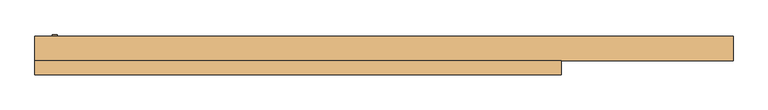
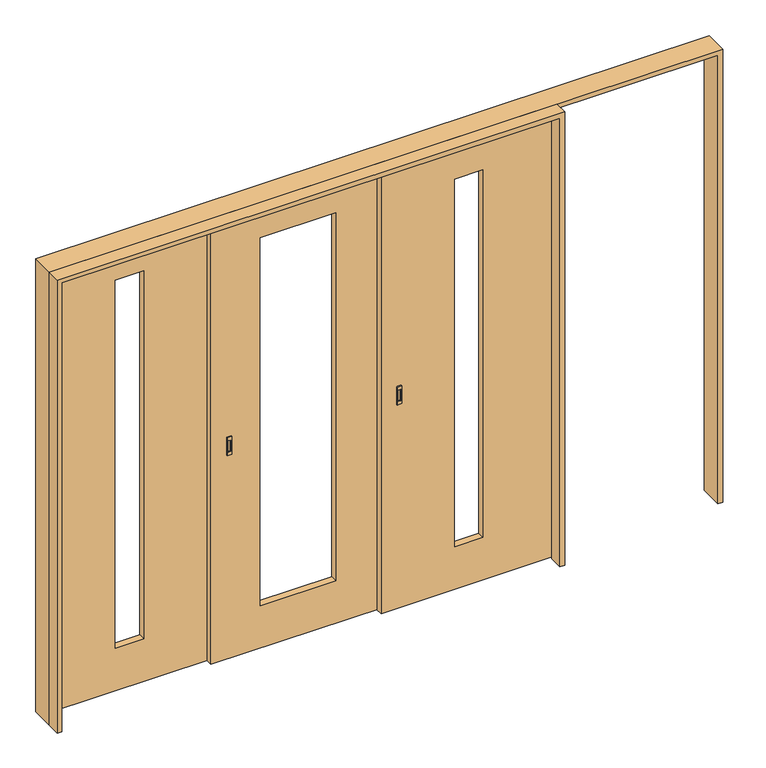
"""IFC4 building model written with IfcOpenShell, lengths in millimetres: door geometry, 木製_片引き3枚_フラッシュ2 : WD-9 w2100h2000."""

import ifcopenshell
import ifcopenshell.guid

model = None  # the IFC model being written
_history = None  # IfcOwnerHistory: only IFC2X3 demands one
_inside = {}  # id of a spatial element -> (the spatial element, [elements in it])
_under = {}  # id of a project, library or spatial element -> (it, [spatial elements below it])
_declared = {}  # id of a project -> (the project, [libraries it declares])
_typed = {}  # id of a type object -> (the type object, [elements of that type])
_made_of = {}  # id of a material, layer set ... -> (it, [elements and type objects made of it])


def new_model(schema):
    """Start an empty IFC model of exactly this schema.

    Asked for "IFC4X3", IfcOpenShell would pick the latest addendum, in which some entities
    have other attributes; the version numbers below select the first issue.
    IFC2X3 requires an IfcOwnerHistory on every rooted entity: one is made here for all.
    """
    global model, _history
    if schema == "IFC4X3":
        model = ifcopenshell.file(schema_version=(4, 3, 0, 0))
    else:
        model = ifcopenshell.file(schema=schema)
    _inside.clear()
    _under.clear()
    _declared.clear()
    _typed.clear()
    _made_of.clear()
    _history = None
    if model.schema == "IFC2X3":
        org = make("IfcOrganization", Name="unknown")
        user = make(
            "IfcPersonAndOrganization",
            ThePerson=make("IfcPerson", FamilyName="unknown"),
            TheOrganization=org,
        )
        app = make(
            "IfcApplication",
            ApplicationDeveloper=org,
            Version="unknown",
            ApplicationFullName="unknown",
            ApplicationIdentifier="unknown",
        )
        _history = make(
            "IfcOwnerHistory",
            OwningUser=user,
            OwningApplication=app,
            ChangeAction="ADDED",
            CreationDate=0,
        )
    return model


def make(cls, **values):
    """One entity of the class cls with the attributes given. An attribute that is None is left unset."""
    return model.create_entity(
        cls, **{name: value for name, value in values.items() if value is not None}
    )


def rooted(cls, **values):
    """An entity with a GlobalId (a new one), such as an element, a storey or a relation."""
    return make(cls, GlobalId=ifcopenshell.guid.new(), OwnerHistory=_history, **values)


def si_unit(unit_type, name, prefix=None):
    """IfcSIUnit, for example si_unit("LENGTHUNIT", "METRE", prefix="MILLI")."""
    return make("IfcSIUnit", UnitType=unit_type, Prefix=prefix, Name=name)


def assignment(units):
    """IfcUnitAssignment: the units of a project."""
    return None if units is None else make("IfcUnitAssignment", Units=units)


def point(xyz):
    """IfcCartesianPoint."""
    return None if xyz is None else make("IfcCartesianPoint", Coordinates=xyz)


def direction(xyz):
    """IfcDirection."""
    return None if xyz is None else make("IfcDirection", DirectionRatios=xyz)


def frame(location, z_axis=None, x_axis=None):
    """IfcAxis2Placement3D, a coordinate frame: its origin and axes. An axis left out is left unset."""
    return make(
        "IfcAxis2Placement3D",
        Location=point(location),
        Axis=direction(z_axis),
        RefDirection=direction(x_axis),
    )


def origin():
    """The frame at (0, 0, 0) with its axes left unset."""
    return frame((0.0, 0.0, 0.0))


def place(relative_to, where):
    """IfcLocalPlacement: puts the frame where relative to a parent placement (None: the world)."""
    return make(
        "IfcLocalPlacement", PlacementRelTo=relative_to, RelativePlacement=where
    )


def context(
    kind, dimensions, precision=None, world=None, true_north=None, identifier=None
):
    """IfcGeometricRepresentationContext, for example the 3D "Model" context."""
    return make(
        "IfcGeometricRepresentationContext",
        ContextIdentifier=identifier,
        ContextType=kind,
        CoordinateSpaceDimension=dimensions,
        Precision=precision,
        WorldCoordinateSystem=world,
        TrueNorth=true_north,
    )


def project(units=None, contexts=None):
    """IfcProject with its units and contexts."""
    return rooted(
        "IfcProject",
        Name="project",
        RepresentationContexts=contexts,
        UnitsInContext=assignment(units),
    )


def spatial(cls, under=None, at=None, **own):
    """A site, building, storey or space (cls), placed at a placement, below another one or the project."""
    s = rooted(cls, ObjectPlacement=at, **own)
    if under is not None:
        _under.setdefault(under.id(), (under, []))[1].append(s)
    return s


def polyline(points):
    """IfcPolyline through the points."""
    return make("IfcPolyline", Points=[point(p) for p in points])


def outline(outer, holes=None, kind="AREA"):
    """IfcArbitraryClosedProfileDef: a profile drawn as a closed curve; with holes, ...WithVoids."""
    if holes is None:
        return make("IfcArbitraryClosedProfileDef", ProfileType=kind, OuterCurve=outer)
    return make(
        "IfcArbitraryProfileDefWithVoids",
        ProfileType=kind,
        OuterCurve=outer,
        InnerCurves=holes,
    )


def extrude(swept, where, along, depth):
    """IfcExtrudedAreaSolid: the profile swept, set in the frame where, extruded along a direction by depth."""
    return make(
        "IfcExtrudedAreaSolid",
        SweptArea=swept,
        Position=where,
        ExtrudedDirection=direction(along),
        Depth=depth,
    )


def faces_of(points, faces, orient=None, outer=None):
    """IfcFace entities. A face is a list of loops; a loop is a list of indices into points, from 0.

    orient and outer hold one flag for each loop. By default every Orientation is true, the
    first loop of a face is its IfcFaceOuterBound and the others are IfcFaceBound.
    """
    made = []
    for i, loops in enumerate(faces):
        bounds = []
        for j, loop in enumerate(loops):
            is_outer = j == 0 if outer is None else outer[i][j]
            bounds.append(
                make(
                    "IfcFaceOuterBound" if is_outer else "IfcFaceBound",
                    Bound=make("IfcPolyLoop", Polygon=[points[k] for k in loop]),
                    Orientation=True if orient is None else orient[i][j],
                )
            )
        made.append(make("IfcFace", Bounds=bounds))
    return made


def faceted_brep(points, faces, orient=None, outer=None, voids=None):
    """IfcFacetedBrep: a solid bounded by flat faces; with voids (closed shells), ...WithVoids."""
    shared = [point(p) for p in points]
    hull = make("IfcClosedShell", CfsFaces=faces_of(shared, faces, orient, outer))
    if voids is None:
        return make("IfcFacetedBrep", Outer=hull)
    return make(
        "IfcFacetedBrepWithVoids",
        Outer=hull,
        Voids=[
            make(cls, CfsFaces=faces_of(shared, fs, o, b)) for cls, fs, o, b in voids
        ],
    )


def shape(context_of_items, identifier, shape_type, items):
    """IfcShapeRepresentation: the items that make up one representation, for example the "Body"."""
    return make(
        "IfcShapeRepresentation",
        ContextOfItems=context_of_items,
        RepresentationIdentifier=identifier,
        RepresentationType=shape_type,
        Items=items,
    )


def source(mapping_origin, context_of_items, identifier, shape_type, items):
    """IfcRepresentationMap: a shape defined once, which mapped items show again and again."""
    return make(
        "IfcRepresentationMap",
        MappingOrigin=mapping_origin,
        MappedRepresentation=shape(context_of_items, identifier, shape_type, items),
    )


def transform(
    local_origin,
    x_axis=None,
    y_axis=None,
    z_axis=None,
    scale=None,
    scale2=None,
    scale3=None,
    uniform=True,
):
    """IfcCartesianTransformationOperator3D, or its non-uniform kind. x_axis, y_axis, z_axis: its Axis1, 2, 3."""
    if uniform:
        return make(
            "IfcCartesianTransformationOperator3D",
            Axis1=direction(x_axis),
            Axis2=direction(y_axis),
            LocalOrigin=point(local_origin),
            Scale=scale,
            Axis3=direction(z_axis),
        )
    return make(
        "IfcCartesianTransformationOperator3DnonUniform",
        Axis1=direction(x_axis),
        Axis2=direction(y_axis),
        LocalOrigin=point(local_origin),
        Scale=scale,
        Axis3=direction(z_axis),
        Scale2=scale2,
        Scale3=scale3,
    )


def mapped(mapping_source, mapping_target):
    """IfcMappedItem: shows the shape of a source again, moved by a transform."""
    return make(
        "IfcMappedItem", MappingSource=mapping_source, MappingTarget=mapping_target
    )


def made_of(thing, what):
    """Note that an element or type object is made of a material, layer set ...; save() writes the relation."""
    if what is not None:
        _made_of.setdefault(what.id(), (what, []))[1].append(thing)
    return thing


def element(
    cls,
    number,
    at=None,
    inside=None,
    cuts=None,
    type_object=None,
    material=None,
    context=None,
    identifier="Body",
    shape_type=None,
    held_by="IfcProductDefinitionShape",
    body=None,
    shapes=None,
    **own,
):
    """One element of the class cls, such as IfcWall. Its Tag is "e" and its number.

    at: its placement. inside: the storey or other place that contains it. cuts: it is an
    opening in that element (IfcRelVoidsElement). A single representation is given by context,
    identifier, shape_type and body (its items); several are given by shapes. held_by: the class
    of the entity that holds the representations. save() writes the other relations.
    """
    e = rooted(cls, Tag="e%d" % number, ObjectPlacement=at, **own)
    if body is not None:
        shapes = [shape(context, identifier, shape_type, body)]
    if shapes is not None:
        e.Representation = make(held_by, Representations=shapes)
    if inside is not None:
        _inside.setdefault(inside.id(), (inside, []))[1].append(e)
    if cuts is not None:
        rooted(
            "IfcRelVoidsElement", RelatingBuildingElement=cuts, RelatedOpeningElement=e
        )
    if type_object is not None:
        _typed.setdefault(type_object.id(), (type_object, []))[1].append(e)
    return made_of(e, material)


def aggregate(whole, parts):
    """IfcRelAggregates: a whole, such as a stair, and the parts it consists of."""
    return rooted("IfcRelAggregates", RelatingObject=whole, RelatedObjects=parts)


def save(model, path):
    """Write the relations noted so far, then the file.

    IfcRelAggregates (storeys below a building ...), IfcRelContainedInSpatialStructure (elements
    in a storey), IfcRelDefinesByType, IfcRelAssociatesMaterial and IfcRelDeclares: one each for
    every whole, place, type object, material and project.
    """
    for whole, parts in _under.values():
        aggregate(whole, parts)
    for where, things in _inside.values():
        rooted(
            "IfcRelContainedInSpatialStructure",
            RelatedElements=things,
            RelatingStructure=where,
        )
    for kind, things in _typed.values():
        rooted("IfcRelDefinesByType", RelatedObjects=things, RelatingType=kind)
    for what, things in _made_of.values():
        rooted("IfcRelAssociatesMaterial", RelatedObjects=things, RelatingMaterial=what)
    for by, libraries in _declared.values():
        rooted("IfcRelDeclares", RelatingContext=by, RelatedDefinitions=libraries)
    model.write(path)


def door_31a51f76(model_context):
    return source(origin(), model_context, "Body", "SolidModel", [
        faceted_brep([(414.464496, -22.5, 910.0), (414.464496, -22.5, 990.0), (394.464496, -22.5, 990.0), (394.464496, -22.5, 910.0), (399.464496, -22.5, 975.0), (409.464496, -22.5, 975.0), (409.464496, -22.5, 925.0), (399.464496, -22.5, 925.0), (414.464496, 17.5, 910.0), (394.464496, 17.5, 910.0), (394.464496, 17.5, 990.0), (414.464496, 17.5, 990.0), (399.464496, 17.5, 925.0), (409.464496, 17.5, 925.0), (409.464496, 17.5, 975.0), (399.464496, 17.5, 975.0), (399.464496, -17.5, 975.0), (399.464496, -17.5, 925.0), (409.464496, -17.5, 925.0), (409.464496, -17.5, 975.0), (409.464496, 12.5, 925.0), (399.464496, 12.5, 925.0), (399.464496, 12.5, 975.0), (409.464496, 12.5, 975.0)], [[[0, 1, 2, 3], [4, 5, 6, 7]], [[8, 9, 10, 11], [12, 13, 14, 15]], [[1, 0, 8, 11]], [[2, 1, 11, 10]], [[3, 2, 10, 9]], [[0, 3, 9, 8]], [[16, 17, 18, 19]], [[16, 19, 5, 4]], [[19, 18, 6, 5]], [[18, 17, 7, 6]], [[17, 16, 4, 7]], [[20, 21, 22, 23]], [[21, 20, 13, 12]], [[22, 21, 12, 15]], [[23, 22, 15, 14]], [[20, 23, 14, 13]]]),
        faceted_brep([(-285.535504, 7.5, 910.0), (-285.535504, 7.5, 990.0), (-305.535504, 7.5, 990.0), (-305.535504, 7.5, 910.0), (-300.535504, 7.5, 975.0), (-290.535504, 7.5, 975.0), (-290.535504, 7.5, 925.0), (-300.535504, 7.5, 925.0), (-285.535504, 47.5, 910.0), (-305.535504, 47.5, 910.0), (-305.535504, 47.5, 990.0), (-285.535504, 47.5, 990.0), (-300.535504, 47.5, 925.0), (-290.535504, 47.5, 925.0), (-290.535504, 47.5, 975.0), (-300.535504, 47.5, 975.0), (-300.535504, 12.5, 975.0), (-300.535504, 12.5, 925.0), (-290.535504, 12.5, 925.0), (-290.535504, 12.5, 975.0), (-290.535504, 42.5, 925.0), (-300.535504, 42.5, 925.0), (-300.535504, 42.5, 975.0), (-290.535504, 42.5, 975.0)], [[[0, 1, 2, 3], [4, 5, 6, 7]], [[8, 9, 10, 11], [12, 13, 14, 15]], [[1, 0, 8, 11]], [[2, 1, 11, 10]], [[3, 2, 10, 9]], [[0, 3, 9, 8]], [[16, 17, 18, 19]], [[16, 19, 5, 4]], [[19, 18, 6, 5]], [[18, 17, 7, 6]], [[17, 16, 4, 7]], [[20, 21, 22, 23]], [[21, 20, 13, 12]], [[22, 21, 12, 15]], [[23, 22, 15, 14]], [[20, 23, 14, 13]]]),
        faceted_brep([(-985.535504, 37.5, 910.0), (-985.535504, 37.5, 990.0), (-1005.535504, 37.5, 990.0), (-1005.535504, 37.5, 910.0), (-1000.535504, 37.5, 975.0), (-990.535504, 37.5, 975.0), (-990.535504, 37.5, 925.0), (-1000.535504, 37.5, 925.0), (-985.535504, 77.5, 910.0), (-1005.535504, 77.5, 910.0), (-1005.535504, 77.5, 990.0), (-985.535504, 77.5, 990.0), (-1000.535504, 77.5, 925.0), (-990.535504, 77.5, 925.0), (-990.535504, 77.5, 975.0), (-1000.535504, 77.5, 975.0), (-1000.535504, 42.5, 975.0), (-1000.535504, 42.5, 925.0), (-990.535504, 42.5, 925.0), (-990.535504, 42.5, 975.0), (-990.535504, 72.5, 925.0), (-1000.535504, 72.5, 925.0), (-1000.535504, 72.5, 975.0), (-990.535504, 72.5, 975.0)], [[[0, 1, 2, 3], [4, 5, 6, 7]], [[8, 9, 10, 11], [12, 13, 14, 15]], [[1, 0, 8, 11]], [[2, 1, 11, 10]], [[3, 2, 10, 9]], [[0, 3, 9, 8]], [[16, 17, 18, 19]], [[16, 19, 5, 4]], [[19, 18, 6, 5]], [[18, 17, 7, 6]], [[17, 16, 4, 7]], [[20, 21, 22, 23]], [[21, 20, 13, 12]], [[22, 21, 12, 15]], [[23, 22, 15, 14]], [[20, 23, 14, 13]]]),
        extrude(outline(polyline([(2000.0, 1064.464496), (2000.0, 329.464496), (0.0, 329.464496), (0.0, 1064.464496), (2000.0, 1064.464496)]), holes=[polyline([(1829.0931833, 759.1056252), (189.0931833, 759.1056252), (189.0931833, 639.1056252), (1829.0931833, 639.1056252), (1829.0931833, 759.1056252)])]), frame((0.0, -17.5, 0.0), z_axis=(0.0, 1.0, 0.0), x_axis=(0.0, 0.0, 1.0)), (0.0, 0.0, 1.0), 30.0),
        extrude(outline(polyline([(2000.0, 359.464496), (2000.0, -370.535504), (0.0, -370.535504), (0.0, 359.464496), (2000.0, 359.464496)]), holes=[polyline([(1829.0931833, 156.6056252), (189.0931833, 156.6056252), (189.0931833, -163.3943748), (1829.0931833, -163.3943748), (1829.0931833, 156.6056252)])]), frame((0.0, 12.5, 0.0), z_axis=(0.0, 1.0, 0.0), x_axis=(0.0, 0.0, 1.0)), (0.0, 0.0, 1.0), 30.0),
        extrude(outline(polyline([(2020.0, 1064.464496), (2020.0, -1075.535504), (0.0, -1075.535504), (0.0, -1055.535504), (2000.0, -1055.535504), (2000.0, 1044.464496), (0.0, 1044.464496), (0.0, 1064.464496), (2020.0, 1064.464496)])), frame((0.0, -85.0, 0.0), z_axis=(0.0, 1.0, 0.0), x_axis=(0.0, 0.0, 1.0)), (0.0, 0.0, 1.0), 57.5),
        extrude(outline(polyline([(2020.0, 1764.464496), (2020.0, -1075.535504), (0.0, -1075.535504), (0.0, -1055.535504), (2000.0, -1055.535504), (2000.0, 1744.464496), (0.0, 1744.464496), (0.0, 1764.464496), (2020.0, 1764.464496)])), frame((0.0, -27.5, 0.0), z_axis=(0.0, 1.0, 0.0), x_axis=(0.0, 0.0, 1.0)), (0.0, 0.0, 1.0), 100.0),
        extrude(outline(polyline([(2000.0, -340.535504), (2000.0, -1055.535504), (0.0, -1055.535504), (0.0, -340.535504), (2000.0, -340.535504)]), holes=[polyline([(1829.0931833, -635.8943748), (189.0931833, -635.8943748), (189.0931833, -755.8943748), (1829.0931833, -755.8943748), (1829.0931833, -635.8943748)])]), frame((0.0, 42.5, 0.0), z_axis=(0.0, 1.0, 0.0), x_axis=(0.0, 0.0, 1.0)), (0.0, 0.0, 1.0), 30.0),
    ])


if __name__ == "__main__":
    model = new_model("IFC4")
    model_context = context("Model", 3, world=origin())
    ifc_project = project(units=[si_unit("LENGTHUNIT", "METRE", prefix="MILLI")], contexts=[model_context])
    site = spatial("IfcSite", under=ifc_project)
    building = spatial("IfcBuilding", under=site)
    placement = place(None, origin())
    door_shape = door_31a51f76(model_context)
    element("IfcDoor", 1, ObjectType="木製_片引き3枚_フラッシュ2 : WD-9 w2100h2000", at=placement, inside=building, context=model_context, shape_type="MappedRepresentation", body=[
        mapped(door_shape, transform((0.0, 0.0, 0.0), x_axis=(1.0, 0.0, 0.0), y_axis=(0.0, 1.0, 0.0), z_axis=(0.0, 0.0, 1.0))),
    ])
    save(model, "model.ifc")
